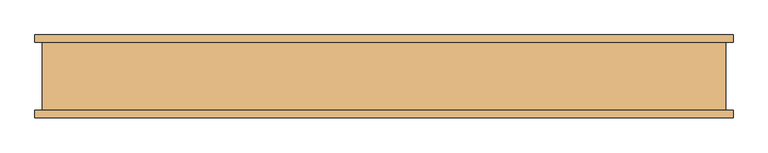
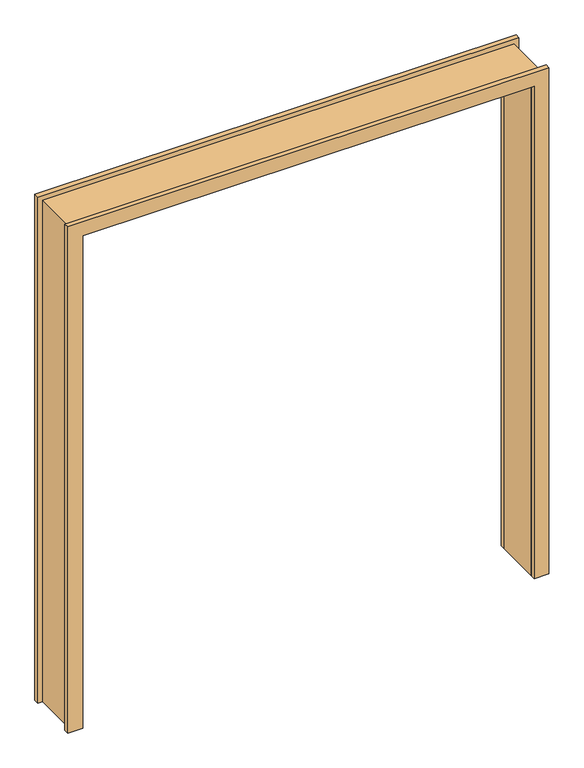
"""IFC4 building model written with IfcOpenShell, lengths in millimetres: door geometry, 门洞 : MD1(洞口）."""

from ifc_helpers import new_model, si_unit, frame, origin, place, context, project, spatial, polyline, outline, extrude, source, transform, mapped, element, save


def door_54be2501(model_context):
    return source(origin(), model_context, "Body", "SweptSolid", [
        extrude(outline(polyline([(2700.0, -1200.0), (0.0, -1200.0), (0.0, -1150.0), (2650.0, -1150.0), (2650.0, 1150.0), (0.0, 1150.0), (0.0, 1200.0), (2700.0, 1200.0), (2700.0, -1200.0)])), frame((0.0, -120.0, 0.0), z_axis=(0.0, 1.0, 0.0), x_axis=(0.0, 0.0, 1.0)), (0.0, 0.0, 1.0), 240.0),
        extrude(outline(polyline([(2725.0, -1225.0), (0.0, -1225.0), (0.0, -1150.0), (2650.0, -1150.0), (2650.0, 1150.0), (0.0, 1150.0), (0.0, 1225.0), (2725.0, 1225.0), (2725.0, -1225.0)])), frame((0.0, 120.0, 0.0), z_axis=(0.0, 1.0, 0.0), x_axis=(0.0, 0.0, 1.0)), (0.0, 0.0, 1.0), 25.0),
        extrude(outline(polyline([(2725.0, -1225.0), (0.0, -1225.0), (0.0, -1150.0), (2650.0, -1150.0), (2650.0, 1150.0), (0.0, 1150.0), (0.0, 1225.0), (2725.0, 1225.0), (2725.0, -1225.0)])), frame((0.0, -145.0, 0.0), z_axis=(0.0, 1.0, 0.0), x_axis=(0.0, 0.0, 1.0)), (0.0, 0.0, 1.0), 25.0),
    ])


if __name__ == "__main__":
    model = new_model("IFC4")
    model_context = context("Model", 3, world=origin())
    ifc_project = project(units=[si_unit("LENGTHUNIT", "METRE", prefix="MILLI")], contexts=[model_context])
    site = spatial("IfcSite", under=ifc_project)
    building = spatial("IfcBuilding", under=site)
    placement = place(None, origin())
    door_shape = door_54be2501(model_context)
    element("IfcDoor", 1, ObjectType="门洞 : MD1(洞口）", at=placement, inside=building, context=model_context, shape_type="MappedRepresentation", body=[
        mapped(door_shape, transform((0.0, 0.0, 0.0), x_axis=(1.0, 0.0, 0.0), y_axis=(0.0, 1.0, 0.0), z_axis=(0.0, 0.0, 1.0))),
    ])
    save(model, "model.ifc")
